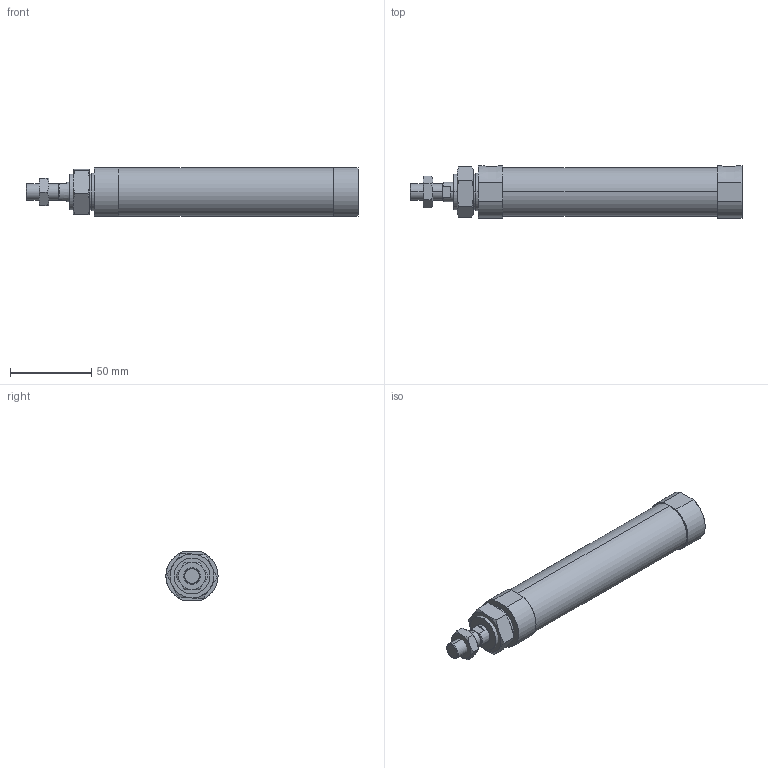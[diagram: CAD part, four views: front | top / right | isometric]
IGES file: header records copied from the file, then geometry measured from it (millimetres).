
Start section: SolidWorks IGES file using analytic representation for surfaces
Global section: file name: C:\Users\Toshiba\Desktop\JGND2-25-100-N.IGS; native system: SolidWorks 2014; preprocessor: SolidWorks 2014; author: Toshiba; date: 160804.103949; units: millimetre
Bounding box: 204 x 32 x 30 mm (x, y, z)
Surface area: 23346.3 mm2 (no closed solid volume)
Topology: 0 solids, 0 shells, 89 faces, 1592 edges, 1588 vertices
Faces by surface type: bspline 59, revolution 30
